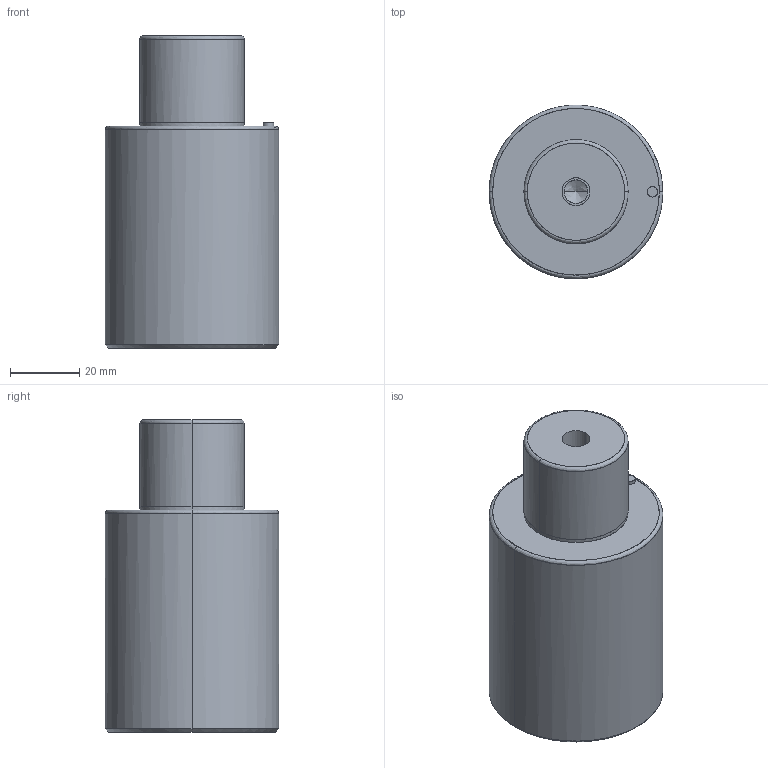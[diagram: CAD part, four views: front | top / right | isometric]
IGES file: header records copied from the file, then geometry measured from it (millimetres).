
Global section: file name: E:\UnigraphicsGraphicData\MISUMI_PRESS-PARTS\IGES\3d_gsc50-25_03817_r00.igs; native system: NX V5.0; preprocessor: UGS NX IGES V5.0; author: MISUMI; date: 20110105.160749; units: millimetre
Bounding box: 50 x 49.89 x 90 mm (x, y, z)
Surface area: 17123.5 mm2 (no closed solid volume)
Topology: 0 solids, 0 shells, 32 faces, 232 edges, 228 vertices
Faces by surface type: bspline 32
